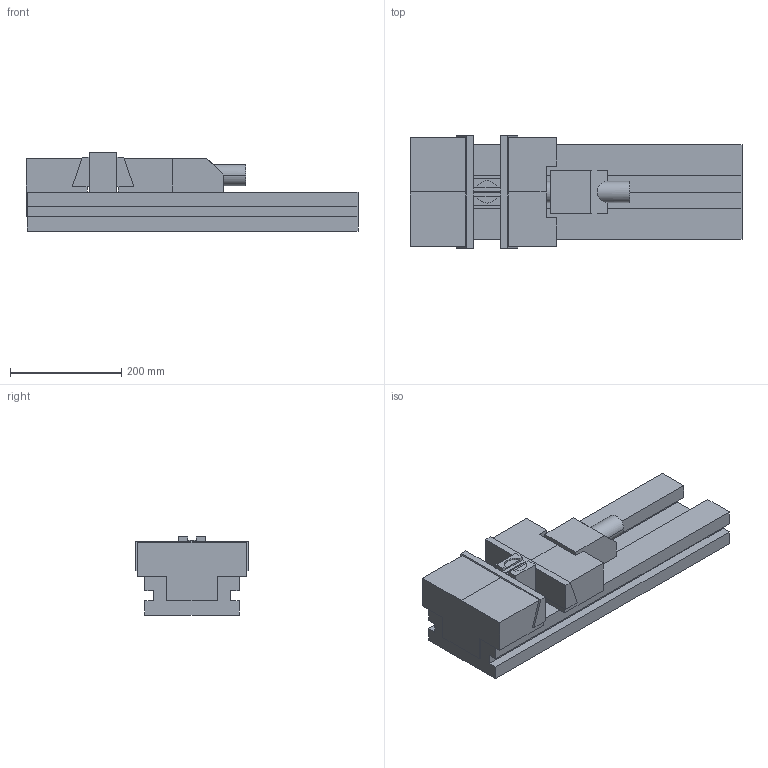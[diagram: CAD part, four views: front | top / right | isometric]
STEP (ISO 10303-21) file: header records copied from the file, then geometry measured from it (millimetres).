
FILE_DESCRIPTION(('3DEXPERIENCE STEP','CAx-IF Rec.Pracs.--- Model Styling and Organization---1.5--- 2016-08-15','CAx-IF Rec.Pracs.---Supplemental Geometry---1.0---2011-11-01','CAx-IF Rec.Pracs.--- Composite Materials ---3.4---2017-06-13','CAx-IF Rec.Pracs.---Tessellated 3D Geometry---1.0---2015-12-17'),'2;1');
FILE_NAME('\\?\Z:\SOMAB etau PIK A.stp','2025-05-22T10:00:33+00:00',('none'),('none'),'3DEXPERIENCE Platform3DEXPERIENCE R2025x HotFix 3.3','3DEXPERIENCE Platform STEP AP242 v3','none');
FILE_SCHEMA(('AP242_MANAGED_MODEL_BASED_3D_ENGINEERING_MIM_LF {1 0 10303 442 1 1 4}'));
Length unit declared in the file: millimetre
Products named in the file (4): SOMAB etau PIK; SOMAB_ETAU_FIXE; SOMAB_ETAU_MOBIL; SOMAB-PortePIK
Assembly tree (3 placements, depth 2):
  SOMAB etau PIK
    SOMAB_ETAU_FIXE
    SOMAB_ETAU_MOBIL
    SOMAB-PortePIK
Bounding box: 597 x 203 x 140.55 mm (x, y, z)
Volume: 8676221.7 mm3; surface area: 628765 mm2
Topology: 3 solids, 3 shells, 100 faces, 274 edges, 182 vertices
Faces by surface type: plane 92, cylinder 8
Entity records: 3096 total; most frequent: CARTESIAN_POINT 560, ORIENTED_EDGE 548, DIRECTION 422, EDGE_CURVE 274, VECTOR 256, LINE 256, VERTEX_POINT 182, EDGE_LOOP 102
